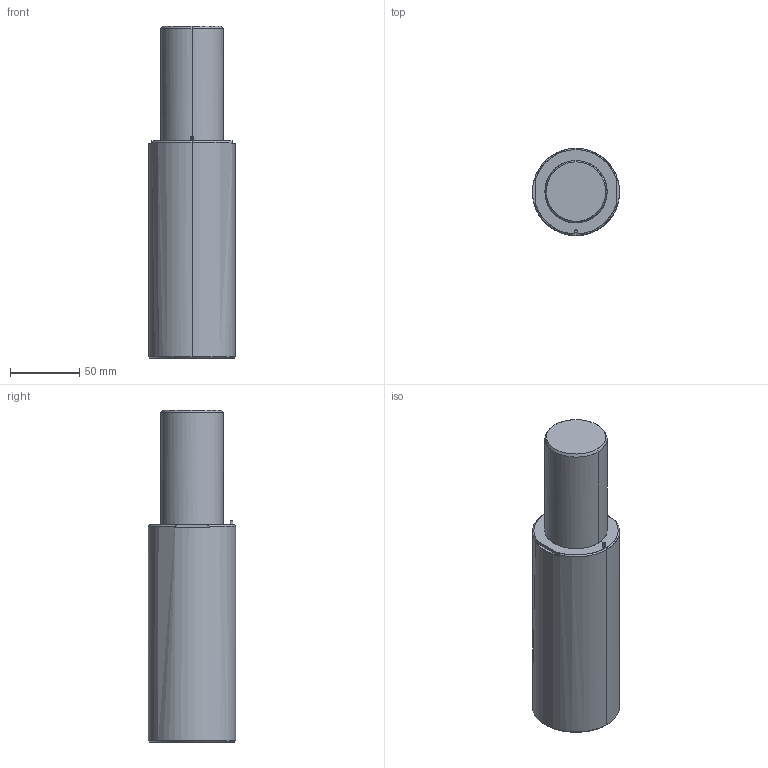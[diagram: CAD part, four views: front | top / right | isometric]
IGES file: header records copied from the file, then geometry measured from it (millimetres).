
Global section: file name: E:\UnigraphicsGraphicData\MISUMI_PRESS-PARTS\IGES\3d_gsx63-80_03967_r00.igs; native system: NX V5.0; preprocessor: UGS NX IGES V5.0; author: MISUMI; date: 20110105.160832; units: millimetre
Bounding box: 63 x 63 x 240 mm (x, y, z)
Surface area: 50453.4 mm2 (no closed solid volume)
Topology: 0 solids, 0 shells, 59 faces, 428 edges, 420 vertices
Faces by surface type: bspline 59
